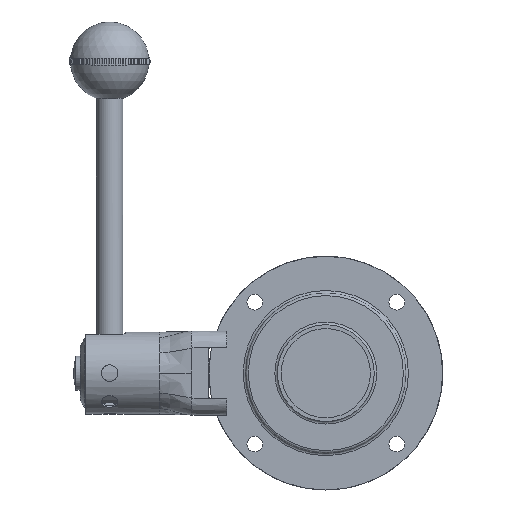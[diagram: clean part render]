
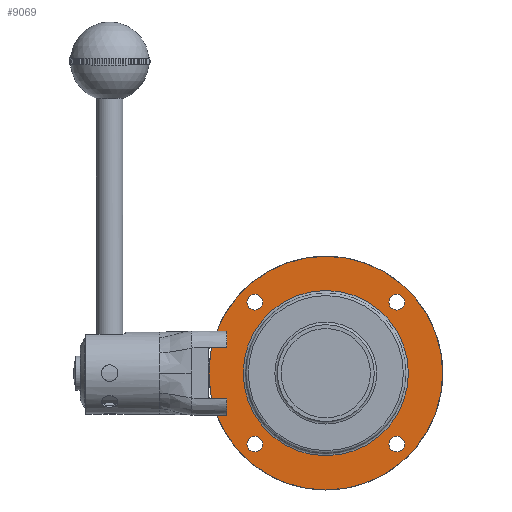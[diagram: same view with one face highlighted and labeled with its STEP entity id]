
A CAD part, left-side view. The second image highlights one B-rep face of the part: STEP entity #9069.
In plain terms, the highlighted planar face has unit normal (-1, 0, 0) as drawn and (1, 0, 0) by its records, which use the part's own axes.
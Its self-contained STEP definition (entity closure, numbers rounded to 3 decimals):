
#831=FACE_BOUND('',#2445,.T.);
#832=FACE_BOUND('',#2446,.T.);
#833=FACE_BOUND('',#2447,.T.);
#834=FACE_BOUND('',#2448,.T.);
#835=FACE_BOUND('',#2449,.T.);
#1181=PLANE('',#10205);
#1827=FACE_OUTER_BOUND('',#2444,.T.);
#2444=EDGE_LOOP('',(#8508));
#2445=EDGE_LOOP('',(#8509));
#2446=EDGE_LOOP('',(#8510));
#2447=EDGE_LOOP('',(#8511));
#2448=EDGE_LOOP('',(#8512));
#2449=EDGE_LOOP('',(#8513));
#3874=CIRCLE('',#10189,46.);
#3876=CIRCLE('',#10193,3.1);
#3877=CIRCLE('',#10195,3.1);
#3878=CIRCLE('',#10197,3.1);
#3879=CIRCLE('',#10199,3.1);
#3882=CIRCLE('',#10206,32.5);
#4717=VERTEX_POINT('',#26215);
#4720=VERTEX_POINT('',#26243);
#4721=VERTEX_POINT('',#26247);
#4722=VERTEX_POINT('',#26251);
#4723=VERTEX_POINT('',#26255);
#4724=VERTEX_POINT('',#26264);
#5974=EDGE_CURVE('',#4717,#4717,#3874,.T.);
#5980=EDGE_CURVE('',#4720,#4720,#3876,.T.);
#5982=EDGE_CURVE('',#4721,#4721,#3877,.T.);
#5984=EDGE_CURVE('',#4722,#4722,#3878,.T.);
#5986=EDGE_CURVE('',#4723,#4723,#3879,.T.);
#5989=EDGE_CURVE('',#4724,#4724,#3882,.T.);
#8508=ORIENTED_EDGE('',*,*,#5974,.T.);
#8509=ORIENTED_EDGE('',*,*,#5980,.T.);
#8510=ORIENTED_EDGE('',*,*,#5982,.T.);
#8511=ORIENTED_EDGE('',*,*,#5984,.T.);
#8512=ORIENTED_EDGE('',*,*,#5986,.T.);
#8513=ORIENTED_EDGE('',*,*,#5989,.F.);
#9069=ADVANCED_FACE('',(#1827,#831,#832,#833,#834,#835),#1181,.T.);
#10189=AXIS2_PLACEMENT_3D('',#26216,#12703,#12704);
#10193=AXIS2_PLACEMENT_3D('',#26245,#12713,#12714);
#10195=AXIS2_PLACEMENT_3D('',#26249,#12718,#12719);
#10197=AXIS2_PLACEMENT_3D('',#26253,#12723,#12724);
#10199=AXIS2_PLACEMENT_3D('',#26257,#12728,#12729);
#10205=AXIS2_PLACEMENT_3D('',#26263,#12740,#12741);
#10206=AXIS2_PLACEMENT_3D('',#26265,#12742,#12743);
#12703=DIRECTION('center_axis',(1.,0.,0.));
#12704=DIRECTION('ref_axis',(0.,0.,-1.));
#12713=DIRECTION('center_axis',(-1.,0.,0.));
#12714=DIRECTION('ref_axis',(0.,1.,0.));
#12718=DIRECTION('center_axis',(-1.,0.,0.));
#12719=DIRECTION('ref_axis',(0.,0.,-1.));
#12723=DIRECTION('center_axis',(-1.,0.,0.));
#12724=DIRECTION('ref_axis',(0.,-1.,0.));
#12728=DIRECTION('center_axis',(-1.,0.,0.));
#12729=DIRECTION('ref_axis',(0.,0.,1.));
#12740=DIRECTION('center_axis',(1.,0.,0.));
#12741=DIRECTION('ref_axis',(0.,0.,-1.));
#12742=DIRECTION('center_axis',(1.,0.,0.));
#12743=DIRECTION('ref_axis',(0.,0.,-1.));
#26215=CARTESIAN_POINT('',(10.,-46.,0.));
#26216=CARTESIAN_POINT('Origin',(10.,0.,0.));
#26243=CARTESIAN_POINT('',(10.,24.831,-27.931));
#26245=CARTESIAN_POINT('Origin',(10.,27.931,-27.931));
#26247=CARTESIAN_POINT('',(10.,-27.931,-24.831));
#26249=CARTESIAN_POINT('Origin',(10.,-27.931,-27.931));
#26251=CARTESIAN_POINT('',(10.,-24.831,27.931));
#26253=CARTESIAN_POINT('Origin',(10.,-27.931,27.931));
#26255=CARTESIAN_POINT('',(10.,27.931,24.831));
#26257=CARTESIAN_POINT('Origin',(10.,27.931,27.931));
#26263=CARTESIAN_POINT('Origin',(10.,32.5,0.));
#26264=CARTESIAN_POINT('',(10.,0.,32.5));
#26265=CARTESIAN_POINT('Origin',(10.,0.,0.));
